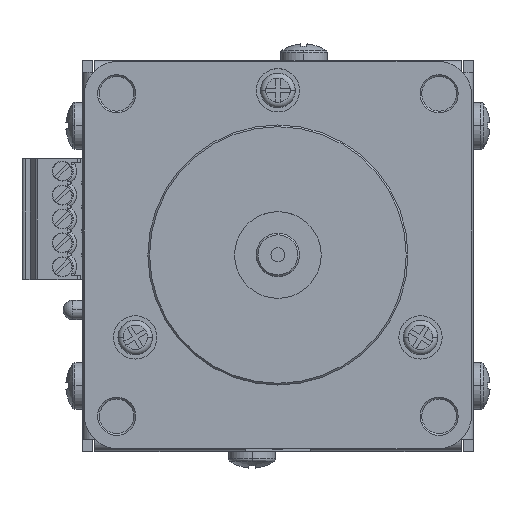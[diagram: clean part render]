
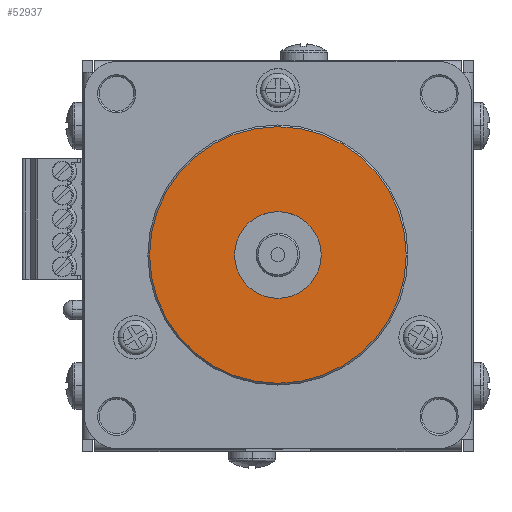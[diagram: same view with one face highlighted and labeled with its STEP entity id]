
A CAD part, top view. The second image highlights one B-rep face of the part: STEP entity #52937.
In plain terms, the highlighted planar face has unit normal (0, 0, 1).
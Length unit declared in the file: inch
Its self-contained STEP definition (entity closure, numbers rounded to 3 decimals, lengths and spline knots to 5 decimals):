
#3324 = AXIS2_PLACEMENT_3D ( 'NONE', #77920, #4544, #90311 ) ;
#4544 = DIRECTION ( 'NONE',  ( 0., 0., 1. ) ) ;
#4830 = VERTEX_POINT ( 'NONE', #124940 ) ;
#14668 = ORIENTED_EDGE ( 'NONE', *, *, #140195, .F. ) ;
#15004 = AXIS2_PLACEMENT_3D ( 'NONE', #104075, #30658, #116388 ) ;
#16732 = CIRCLE ( 'NONE', #134340, 0.74 ) ;
#17586 = CARTESIAN_POINT ( 'NONE',  ( 0.74, 0., 0.06 ) ) ;
#18696 = FACE_OUTER_BOUND ( 'NONE', #34347, .T. ) ;
#19977 = DIRECTION ( 'NONE',  ( 0., 0., 1. ) ) ;
#30451 = VERTEX_POINT ( 'NONE', #40746 ) ;
#30658 = DIRECTION ( 'NONE',  ( 0., 0., 1. ) ) ;
#34005 = CARTESIAN_POINT ( 'NONE',  ( 0., 0., 0.06 ) ) ;
#34347 = EDGE_LOOP ( 'NONE', ( #120910, #53021 ) ) ;
#35139 = VERTEX_POINT ( 'NONE', #17586 ) ;
#40746 = CARTESIAN_POINT ( 'NONE',  ( -0.74, 0., 0.06 ) ) ;
#41656 = ORIENTED_EDGE ( 'NONE', *, *, #117330, .F. ) ;
#46304 = DIRECTION ( 'NONE',  ( 1., 0., 0. ) ) ;
#47402 = FACE_BOUND ( 'NONE', #118832, .T. ) ;
#49057 = AXIS2_PLACEMENT_3D ( 'NONE', #71231, #156898, #83626 ) ;
#52937 = ADVANCED_FACE ( 'NONE', ( #18696, #47402 ), #95395, .T. ) ;
#53021 = ORIENTED_EDGE ( 'NONE', *, *, #95901, .T. ) ;
#65272 = EDGE_CURVE ( 'NONE', #30451, #35139, #16732, .T. ) ;
#68670 = CARTESIAN_POINT ( 'NONE',  ( -0.25, 0., 0.06 ) ) ;
#71231 = CARTESIAN_POINT ( 'NONE',  ( 0., 0., 0.06 ) ) ;
#77920 = CARTESIAN_POINT ( 'NONE',  ( 0., 0., 0.06 ) ) ;
#83626 = DIRECTION ( 'NONE',  ( 1., 0., 0. ) ) ;
#88357 = VERTEX_POINT ( 'NONE', #68670 ) ;
#90311 = DIRECTION ( 'NONE',  ( 1., 0., 0. ) ) ;
#93427 = CARTESIAN_POINT ( 'NONE',  ( 0., 0., 0.06 ) ) ;
#95395 = PLANE ( 'NONE',  #49057 ) ;
#95901 = EDGE_CURVE ( 'NONE', #35139, #30451, #147548, .T. ) ;
#104075 = CARTESIAN_POINT ( 'NONE',  ( 0., 0., 0.06 ) ) ;
#105658 = DIRECTION ( 'NONE',  ( 1., 0., 0. ) ) ;
#105757 = CIRCLE ( 'NONE', #15004, 0.25 ) ;
#116388 = DIRECTION ( 'NONE',  ( 1., 0., 0. ) ) ;
#117330 = EDGE_CURVE ( 'NONE', #4830, #88357, #157234, .T. ) ;
#118832 = EDGE_LOOP ( 'NONE', ( #14668, #41656 ) ) ;
#119776 = DIRECTION ( 'NONE',  ( 0., 0., 1. ) ) ;
#120910 = ORIENTED_EDGE ( 'NONE', *, *, #65272, .T. ) ;
#124940 = CARTESIAN_POINT ( 'NONE',  ( 0.25, 0., 0.06 ) ) ;
#125193 = AXIS2_PLACEMENT_3D ( 'NONE', #34005, #119776, #46304 ) ;
#134340 = AXIS2_PLACEMENT_3D ( 'NONE', #93427, #19977, #105658 ) ;
#140195 = EDGE_CURVE ( 'NONE', #88357, #4830, #105757, .T. ) ;
#147548 = CIRCLE ( 'NONE', #3324, 0.74 ) ;
#156898 = DIRECTION ( 'NONE',  ( 0., 0., 1. ) ) ;
#157234 = CIRCLE ( 'NONE', #125193, 0.25 ) ;
